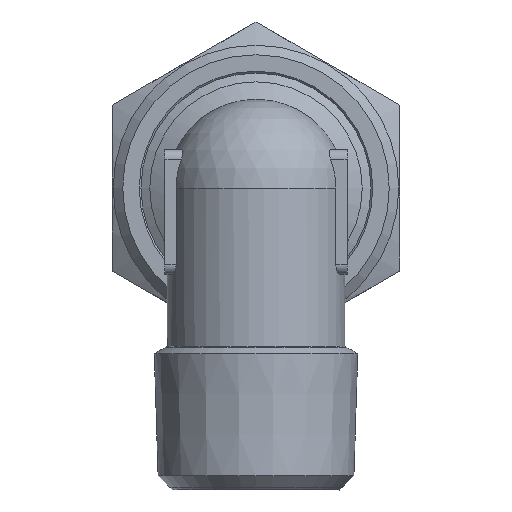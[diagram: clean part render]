
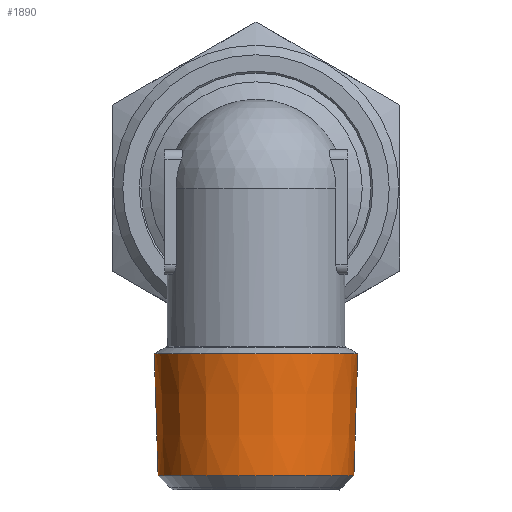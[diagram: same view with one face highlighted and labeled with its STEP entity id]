
A CAD part, left-side view. The second image highlights one B-rep face of the part: STEP entity #1890.
In plain terms, the highlighted conical face has half-angle 1.79 degrees and reference radius 10.609 mm.
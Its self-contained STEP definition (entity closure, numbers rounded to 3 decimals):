
#1890=ADVANCED_FACE('', (#1900,#1910), #1920, .T.);
#7160=AXIS2_PLACEMENT_3D('Ax2Pl3d', #7170, #7180, #7190);
#7280=AXIS2_PLACEMENT_3D('Ax2Pl3d', #7290, #7300, #7310);
#7320=AXIS2_PLACEMENT_3D('Ax2Pl3d', #7330, #7340, #7350);
#7170=CARTESIAN_POINT('HicPkt', (24.828,17.71,26.832));
#37370=CARTESIAN_POINT('', (24.828,7.101,26.832));
#7290=CARTESIAN_POINT('HicPkt', (24.828,17.71,14.117));
#37390=CARTESIAN_POINT('', (24.828,7.498,14.117));
#7330=CARTESIAN_POINT('HicPkt', (24.828,17.71,26.832))
;
#38240=CIRCLE('Circle', #7160, 10.609);
#38260=CIRCLE('Circle', #7280, 10.212);
#1920=CONICAL_SURFACE('Kegel', #7320, 10.609, 
0.031);
#7180=DIRECTION('Axis', (0.,0.,1.));
#7190=DIRECTION('RefDirection', (1.,0.,-0.));
#7300=DIRECTION('Axis', (0.,0.,-1.));
#7310=DIRECTION('RefDirection', (-1.,-0.,0.));
#7340=DIRECTION('Axis', (0.,0.,1.));
#7350=DIRECTION('RefDirection', (1.,0.,-0.));
#46160=EDGE_CURVE('', #46170, #46170, #38240, .T.);
#46200=EDGE_CURVE('', #46210, #46210, #38260, .T.);
#50050=EDGE_LOOP('Edge_loop', (#50060));
#50070=EDGE_LOOP('Edge_loop', (#50080));
#1910=FACE_BOUND('', #50070, .T.);
#1900=FACE_OUTER_BOUND('Face_outer_bound', #50050, .T.);
#50060=ORIENTED_EDGE('', *, *, #46160, .F.);
#50080=ORIENTED_EDGE('', *, *, #46200, .F.);
#46170=VERTEX_POINT('', #37370);
#46210=VERTEX_POINT('', #37390);
